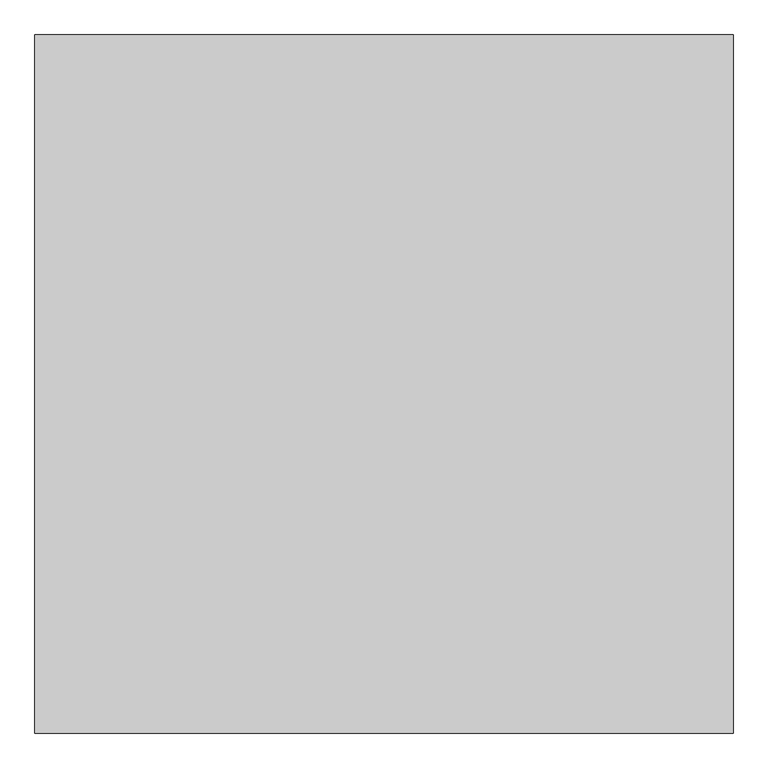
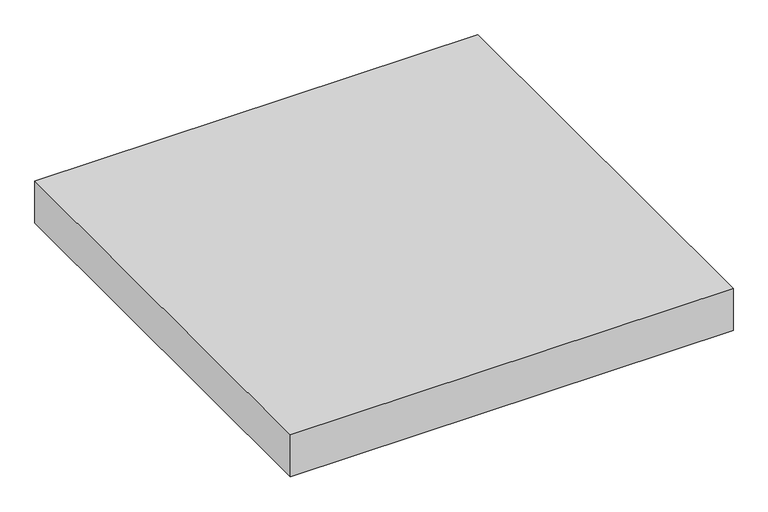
"""IFC4 building model written with IfcOpenShell, lengths in millimetres: proxy geometry, Modelos genéricos 24 : Modelos genéricos 1."""

from ifc_helpers import new_model, si_unit, origin, origin_with_axes, place, context, project, spatial, polyline, outline, extrude, source, transform, mapped, element, save


def generic_models_39fc4655(model_context):
    return source(origin(), model_context, "Body", "SweptSolid", [
        extrude(outline(polyline([(6809.3973641, 6454.287186), (6809.3973641, 4954.287186), (5309.3973641, 4954.287186), (5309.3973641, 6454.287186), (6809.3973641, 6454.287186)])), origin_with_axes(), (0.0, 0.0, 1.0), 150.0),
    ])


if __name__ == "__main__":
    model = new_model("IFC4")
    model_context = context("Model", 3, world=origin())
    ifc_project = project(units=[si_unit("LENGTHUNIT", "METRE", prefix="MILLI")], contexts=[model_context])
    site = spatial("IfcSite", under=ifc_project)
    building = spatial("IfcBuilding", under=site)
    placement = place(None, origin())
    generic_models_shape = generic_models_39fc4655(model_context)
    element("IfcBuildingElementProxy", 1, Name="Modelos genéricos 24 : Modelos genéricos 1", ObjectType="Modelos genéricos 24 : Modelos genéricos 1", at=placement, inside=building, context=model_context, shape_type="MappedRepresentation", body=[
        mapped(generic_models_shape, transform((0.0, 0.0, 0.0), x_axis=(1.0, 0.0, 0.0), y_axis=(0.0, 1.0, 0.0), z_axis=(0.0, 0.0, 1.0))),
    ])
    save(model, "model.ifc")
